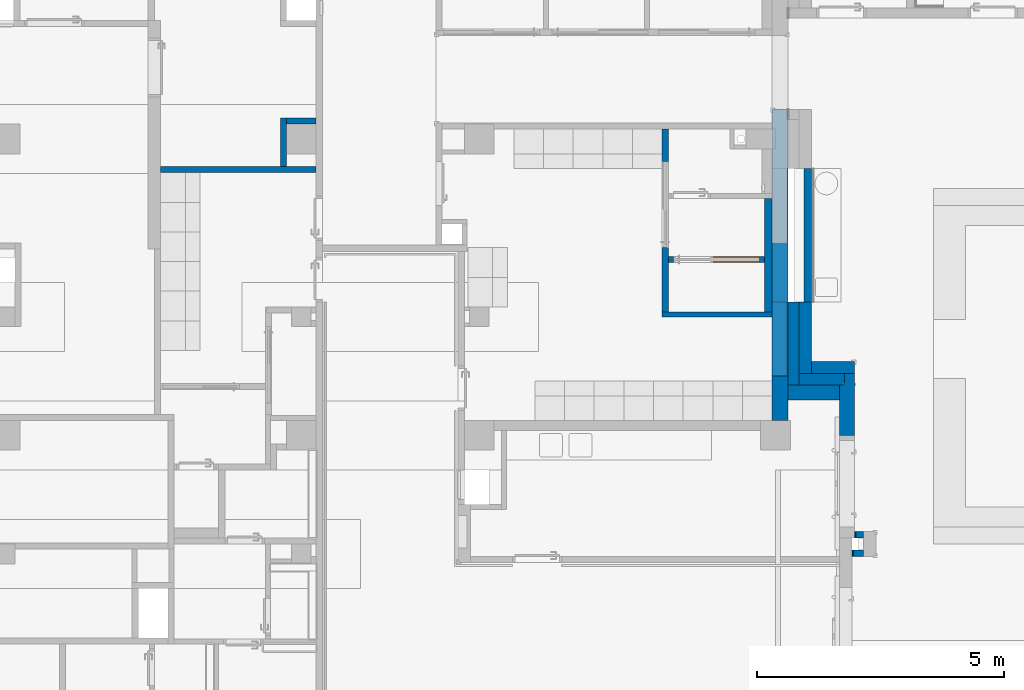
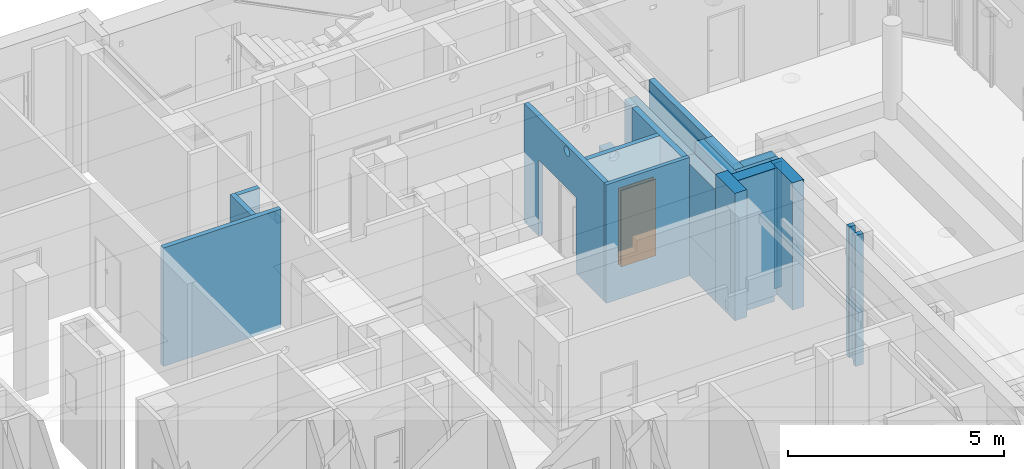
# One storey, part 52 of 140: 24 walls, 1 proxy, 8 openings.
"""IFC4 building model written with IfcOpenShell, lengths in metres."""

from ifc_helpers import new_model, entity, si_unit, converted_unit, derived_unit, frame, frame_2d, origin, origin_with_axes, place, context, subcontext, project, spatial, polyline, rectangle, outline, extrude, faceted_brep, material, layer, layer_set, layer_usage, element, fill, save


model = new_model("IFC4")

# Units and contexts
model_context = context("Model", 3, precision=1e-05, world=origin())
body_context = subcontext(model_context, "Body", "Model", "MODEL_VIEW")
ifc_project = project(units=[si_unit("LENGTHUNIT", "METRE"), si_unit("AREAUNIT", "SQUARE_METRE"), si_unit("VOLUMEUNIT", "CUBIC_METRE"), si_unit("MASSUNIT", "GRAM", prefix="KILO"), converted_unit("PLANEANGLEUNIT", "DEGREE", entity("IfcPlaneAngleMeasure", 0.0174532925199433), si_unit("PLANEANGLEUNIT", "RADIAN"), dimensions=[0, 0, 0, 0, 0, 0, 0]), derived_unit("THERMALTRANSMITTANCEUNIT", [(si_unit("POWERUNIT", "WATT"), 1), (si_unit("THERMODYNAMICTEMPERATUREUNIT", "KELVIN"), -1), (si_unit("LENGTHUNIT", "METRE"), -2)]), derived_unit("VOLUMETRICFLOWRATEUNIT", [(si_unit("LENGTHUNIT", "METRE"), 3), (converted_unit("TIMEUNIT", "hour", entity("IfcTimeMeasure", 3600.0), si_unit("TIMEUNIT", "SECOND"), dimensions=[0, 0, 1, 0, 0, 0, 0]), -1), (si_unit("LENGTHUNIT", "METRE"), -1)])], contexts=[model_context])

# Site, building, storey
site_placement = place(None, origin())
site = spatial("IfcSite", under=ifc_project, at=site_placement, Name="3. ASŘ", CompositionType="ELEMENT")
building_placement = place(site_placement, origin())
building = spatial("IfcBuilding", under=site, at=building_placement, Name="Pavilon C", CompositionType="ELEMENT")
storey_placement = place(building_placement, origin())
storey = spatial("IfcBuildingStorey", under=building, at=storey_placement, Name="Půdorys 1.NP", CompositionType="ELEMENT", Elevation=0.0)

# Wall, opening
ifc_material_1 = material(Name="PLYNOSILIKÁT")
ifc_layer_1 = layer(ifc_material_1, 0.32)
ifc_layer_set_1 = layer_set([ifc_layer_1])
ifc_layer_usage_1 = layer_usage(ifc_layer_set_1, "AXIS2", "POSITIVE", 0.0)
wall_1_placement = place(storey_placement, frame((49.88, 20.4, -0.1), z_axis=(0.0, 0.0, 1.0), x_axis=(0.0, -1.0, 0.0)))
wall_1 = element("IfcWall", 1, at=wall_1_placement, inside=storey, material=ifc_layer_usage_1, Name="PLYNOSILIKÁT", context=body_context, shape_type="SweptSolid", body=[
    extrude(rectangle(XDim=0.899999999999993, YDim=0.32, at=frame_2d((0.449999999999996, 0.16), x_axis=(1.0, 0.0))), origin_with_axes(), (0.0, 0.0, 1.0), 3.6),
])
opening_1_placement = place(wall_1_placement, frame((0.591430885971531, 0.32, 0.1), z_axis=(0.0, -1.0, 0.0), x_axis=(0.0, 0.0, 1.0)))
element("IfcOpeningElement", 2, at=opening_1_placement, cuts=wall_1, Name="UT", ObjectType="Opening", context=body_context, shape_type="SweptSolid", body=[
    extrude(outline(polyline([(0.0, 0.12), (0.25, 0.12), (0.25, 0.0), (0.0, 0.0), (0.0, 0.12)])), origin_with_axes(), (0.0, 0.0, 1.0), 0.32),
])

# Walls
ifc_material_2 = material(Name="ZELEZOBETONOVÁ KCE")
ifc_layer_2 = layer(ifc_material_2, 0.3)
ifc_layer_set_2 = layer_set([ifc_layer_2])
ifc_layer_usage_2 = layer_usage(ifc_layer_set_2, "AXIS2", "POSITIVE", 0.0)
wall_2_placement = place(storey_placement, frame((51.25, 20.22, -0.1), z_axis=(0.0, 0.0, 1.0), x_axis=(-1.0, 0.0, 0.0)))
element("IfcWall", 3, at=wall_2_placement, inside=storey, material=ifc_layer_usage_2, Name="ZELEZOBETONOVÁ KCE", context=body_context, shape_type="SweptSolid", body=[
    extrude(rectangle(XDim=1.05, YDim=0.3, at=frame_2d((0.525, 0.15), x_axis=(1.0, 0.0))), origin_with_axes(), (0.0, 0.0, 1.0), 3.6),
])
ifc_material_3 = material(Name="ZELEZOBETONOVÁ KCE")
ifc_layer_3 = layer(ifc_material_3, 0.3)
ifc_layer_set_3 = layer_set([ifc_layer_3])
ifc_layer_usage_3 = layer_usage(ifc_layer_set_3, "AXIS2", "POSITIVE", 0.0)
wall_3_placement = place(storey_placement, frame((51.55, 19.2, -0.1), z_axis=(0.0, 0.0, 1.0), x_axis=(0.0, 1.0, 0.0)))
element("IfcWall", 4, at=wall_3_placement, inside=storey, material=ifc_layer_usage_3, Name="ZELEZOBETONOVÁ KCE", context=body_context, shape_type="SweptSolid", body=[
    extrude(rectangle(XDim=1.01999999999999, YDim=0.3, at=frame_2d((0.509999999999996, 0.15), x_axis=(1.0, 0.0))), origin_with_axes(), (0.0, 0.0, 1.0), 3.6),
])
ifc_material_4 = material(Name="ZDIVO Z CDm")
ifc_layer_4 = layer(ifc_material_4, 0.125)
ifc_layer_set_4 = layer_set([ifc_layer_4])
ifc_layer_usage_4 = layer_usage(ifc_layer_set_4, "AXIS2", "POSITIVE", 0.0)
wall_4_placement = place(storey_placement, frame((37.5, 24.52, -0.1)))
element("IfcWall", 5, at=wall_4_placement, inside=storey, material=ifc_layer_usage_4, Name="ZDIVO Z CDm", context=body_context, shape_type="SweptSolid", body=[
    extrude(rectangle(XDim=3.15, YDim=0.125, at=frame_2d((1.575, 0.0625), x_axis=(1.0, 0.0))), origin_with_axes(), (0.0, 0.0, 1.0), 3.35),
])
ifc_material_5 = material(Name="ZDIVO Z CDm")
ifc_layer_5 = layer(ifc_material_5, 0.125)
ifc_layer_set_5 = layer_set([ifc_layer_5])
ifc_layer_usage_5 = layer_usage(ifc_layer_set_5, "AXIS2", "POSITIVE", 0.0)
wall_5_placement = place(storey_placement, frame((40.65, 25.625, -0.1), z_axis=(0.0, 0.0, 1.0), x_axis=(-1.0, 0.0, 0.0)))
element("IfcWall", 6, at=wall_5_placement, inside=storey, material=ifc_layer_usage_5, Name="ZDIVO Z CDm", context=body_context, shape_type="SweptSolid", body=[
    extrude(rectangle(XDim=0.6, YDim=0.125, at=frame_2d((0.3, 0.0625), x_axis=(1.0, 0.0))), origin_with_axes(), (0.0, 0.0, 1.0), 3.35),
])
ifc_material_6 = material(Name="ZDIVO Z CDm")
ifc_layer_6 = layer(ifc_material_6, 0.125)
ifc_layer_set_6 = layer_set([ifc_layer_6])
ifc_layer_usage_6 = layer_usage(ifc_layer_set_6, "AXIS2", "POSITIVE", 0.0)
wall_6_placement = place(storey_placement, frame((39.925, 25.625, -0.1), z_axis=(0.0, 0.0, 1.0), x_axis=(0.0, -1.0, 0.0)))
element("IfcWall", 7, at=wall_6_placement, inside=storey, material=ifc_layer_usage_6, Name="ZDIVO Z CDm", context=body_context, shape_type="SweptSolid", body=[
    extrude(rectangle(XDim=0.98, YDim=0.125, at=frame_2d((0.49, 0.0625), x_axis=(1.0, 0.0))), origin_with_axes(), (0.0, 0.0, 1.0), 3.35),
])
ifc_material_7 = material(Name="ZELEZOBETONOVÁ KCE")
ifc_layer_7 = layer(ifc_material_7, 0.32)
ifc_layer_set_7 = layer_set([ifc_layer_7])
ifc_layer_usage_7 = layer_usage(ifc_layer_set_7, "AXIS2", "POSITIVE", 0.0)
wall_7_placement = place(storey_placement, frame((50.2, 20.4, 1.03), z_axis=(0.0, 0.0, 1.0), x_axis=(0.0, 1.0, 0.0)))
element("IfcWall", 8, at=wall_7_placement, inside=storey, material=ifc_layer_usage_7, Name="ZELEZOBETONOVÁ KCE", context=body_context, shape_type="SweptSolid", body=[
    extrude(rectangle(XDim=4.19999999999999, YDim=0.32, at=frame_2d((2.1, 0.16), x_axis=(1.0, 0.0))), origin_with_axes(), (0.0, 0.0, 1.0), 2.04),
])

# Wall, openings
ifc_material_8 = material(Name="ZELEZOBETONOVÁ KCE")
ifc_layer_8 = layer(ifc_material_8, 0.32)
ifc_layer_set_8 = layer_set([ifc_layer_8])
ifc_layer_usage_8 = layer_usage(ifc_layer_set_8, "AXIS2", "POSITIVE", 0.0)
wall_8_placement = place(storey_placement, frame((50.2, 20.4, -0.1), z_axis=(0.0, 0.0, 1.0), x_axis=(0.0, 1.0, 0.0)))
wall_8 = element("IfcWall", 9, at=wall_8_placement, inside=storey, material=ifc_layer_usage_8, Name="ZELEZOBETONOVÁ KCE", context=body_context, shape_type="SweptSolid", body=[
    extrude(rectangle(XDim=5.39999999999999, YDim=0.32, at=frame_2d((2.69999999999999, 0.16), x_axis=(1.0, 0.0))), origin_with_axes(), (0.0, 0.0, 1.0), 1.13),
])
opening_2_placement = place(wall_8_placement, frame((0.0, 0.0, 1.13), z_axis=(0.0, 1.0, 0.0), x_axis=(0.0, 0.0, 1.0)))
element("IfcOpeningElement", 10, at=opening_2_placement, cuts=wall_8, Name="Okenní otvor", ObjectType="Opening", context=body_context, shape_type="SweptSolid", body=[
    extrude(outline(polyline([(0.0, 1.5), (2.04, 1.5), (2.04, 0.0), (0.0, 0.0), (0.0, 1.5)])), origin_with_axes(), (0.0, 0.0, 1.0), 0.32),
])
opening_3_placement = place(wall_8_placement, frame((2.69999999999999, 0.0, 1.13), z_axis=(0.0, 1.0, 0.0), x_axis=(0.0, 0.0, 1.0)))
element("IfcOpeningElement", 11, at=opening_3_placement, cuts=wall_8, Name="Okenní otvor", ObjectType="Opening", context=body_context, shape_type="SweptSolid", body=[
    extrude(outline(polyline([(0.0, 1.5), (2.04, 1.5), (2.04, 0.0), (0.0, 0.0), (0.0, 1.5)])), origin_with_axes(), (0.0, 0.0, 1.0), 0.32),
])
opening_4_placement = place(wall_8_placement, frame((3.86030615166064, 0.32, 0.240000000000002), z_axis=(0.0, -1.0, 0.0), x_axis=(0.0, 0.0, 1.0)))
element("IfcOpeningElement", 12, at=opening_4_placement, cuts=wall_8, Name="ZTI", ObjectType="Opening", context=body_context, shape_type="SweptSolid", body=[
    extrude(outline(polyline([(0.0499999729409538, 0.0), (0.0447735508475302, 0.000273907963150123), (0.0396043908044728, 0.00109262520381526), (0.0345491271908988, 0.00244718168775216), (0.0296631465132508, 0.00432273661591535), (0.0249999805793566, 0.00669874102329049), (0.0206107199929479, 0.00954916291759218), (0.0165434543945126, 0.012842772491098), (0.012842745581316, 0.01654348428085), (0.00954913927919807, 0.020610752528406), (0.00669872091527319, 0.025000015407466), (0.00432272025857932, 0.029663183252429), (0.00244716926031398, 0.0345491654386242), (0.0010926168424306, 0.0396044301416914), (0.000273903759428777, 0.0447735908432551), (0.0, 0.0500000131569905), (0.000273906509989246, 0.0552264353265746), (0.0010926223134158, 0.0603955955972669), (0.00244717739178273, 0.0654508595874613), (0.00432273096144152, 0.0703368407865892), (0.00669873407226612, 0.0750000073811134), (0.00954915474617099, 0.0793892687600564), (0.0128427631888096, 0.0834565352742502), (0.0165434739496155, 0.0871572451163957), (0.0206107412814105, 0.0904508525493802), (0.025000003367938, 0.0933012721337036), (0.0296631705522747, 0.0956772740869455), (0.0345491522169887, 0.0975528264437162), (0.0396044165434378, 0.0989073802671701), (0.0447735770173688, 0.0997260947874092), (0.0499999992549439, 0.1), (0.0552264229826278, 0.0997260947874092), (0.0603955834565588, 0.0989073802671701), (0.0654508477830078, 0.0975528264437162), (0.0703368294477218, 0.0956772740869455), (0.0749999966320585, 0.0933012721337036), (0.079389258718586, 0.0904508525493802), (0.083456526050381, 0.0871572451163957), (0.0871572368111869, 0.0834565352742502), (0.0904508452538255, 0.0793892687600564), (0.0933012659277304, 0.0750000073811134), (0.095677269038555, 0.0703368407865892), (0.0975528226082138, 0.0654508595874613), (0.0989073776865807, 0.0603955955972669), (0.0997260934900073, 0.0552264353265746), (0.0999999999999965, 0.0500000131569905), (0.0997260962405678, 0.0447735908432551), (0.0989073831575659, 0.0396044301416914), (0.0975528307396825, 0.0345491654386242), (0.0956772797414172, 0.029663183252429), (0.0933012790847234, 0.025000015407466), (0.0904508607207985, 0.020610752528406), (0.0871572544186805, 0.01654348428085), (0.0834565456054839, 0.012842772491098), (0.0793892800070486, 0.00954916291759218), (0.0750000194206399, 0.00669874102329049), (0.0703368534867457, 0.00432273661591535), (0.0654508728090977, 0.00244718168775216), (0.0603956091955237, 0.00109262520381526), (0.0552264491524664, 0.000273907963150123), (0.0499999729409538, 0.0)])), origin_with_axes(), (0.0, 0.0, 1.0), 0.32),
])

# Walls
ifc_material_9 = material(Name="ZELEZOBETONOVÁ KCE")
ifc_layer_9 = layer(ifc_material_9, 0.25)
ifc_layer_set_9 = layer_set([ifc_layer_9])
ifc_layer_usage_9 = layer_usage(ifc_layer_set_9, "AXIS2", "POSITIVE", -0.125)
wall_9_placement = place(storey_placement, frame((50.68, 20.45, -0.3), z_axis=(0.0, 0.0, 1.0), x_axis=(0.0, 1.0, 0.0)))
element("IfcWall", 13, at=wall_9_placement, inside=storey, material=ifc_layer_usage_9, Name="ZELEZOBETONOVÁ KCE", context=body_context, shape_type="SweptSolid", body=[
    extrude(rectangle(XDim=1.45, YDim=0.25, at=frame_2d((0.724999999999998, 0.125), x_axis=(1.0, 0.0))), origin_with_axes(), (0.0, 0.0, 1.0), 3.7),
])
ifc_material_10 = material(Name="ZELEZOBETONOVÁ KCE")
ifc_layer_10 = layer(ifc_material_10, 0.2)
ifc_layer_set_10 = layer_set([ifc_layer_10])
ifc_layer_usage_10 = layer_usage(ifc_layer_set_10, "AXIS2", "POSITIVE", -0.125)
wall_10_placement = place(storey_placement, frame((51.55, 20.24, -0.3), z_axis=(0.0, 0.0, 1.0), x_axis=(0.0, 1.0, 0.0)))
element("IfcWall", 14, at=wall_10_placement, inside=storey, material=ifc_layer_usage_10, Name="ZELEZOBETONOVÁ KCE", context=body_context, shape_type="SweptSolid", body=[
    extrude(rectangle(XDim=0.21, YDim=0.2, at=frame_2d((0.105, 0.1), x_axis=(1.0, 0.0))), origin_with_axes(), (0.0, 0.0, 1.0), 3.7),
])
ifc_material_11 = material(Name="ZELEZOBETONOVÁ KCE")
ifc_layer_11 = layer(ifc_material_11, 0.25)
ifc_layer_set_11 = layer_set([ifc_layer_11])
ifc_layer_usage_11 = layer_usage(ifc_layer_set_11, "AXIS2", "POSITIVE", -0.125)
wall_11_placement = place(storey_placement, frame((51.55, 20.7, -0.3), z_axis=(0.0, 0.0, 1.0), x_axis=(-1.0, 0.0, 0.0)))
element("IfcWall", 15, at=wall_11_placement, inside=storey, material=ifc_layer_usage_11, Name="ZELEZOBETONOVÁ KCE", context=body_context, shape_type="SweptSolid", body=[
    extrude(rectangle(XDim=0.87, YDim=0.25, at=frame_2d((0.435, 0.125), x_axis=(1.0, 0.0))), origin_with_axes(), (0.0, 0.0, 1.0), 3.7),
])
ifc_material_12 = material(Name="EPS")
ifc_layer_12 = layer(ifc_material_12, 0.02)
ifc_layer_set_12 = layer_set([ifc_layer_12])
ifc_layer_usage_12 = layer_usage(ifc_layer_set_12, "AXIS2", "POSITIVE", 0.0)
wall_12_placement = place(storey_placement, frame((51.57, 17.125, -0.15), z_axis=(0.0, 0.0, 1.0), x_axis=(0.0, 1.0, 0.0)))
element("IfcWall", 16, at=wall_12_placement, inside=storey, material=ifc_layer_usage_12, Name="EPS", context=body_context, shape_type="SweptSolid", body=[
    extrude(rectangle(XDim=0.125, YDim=0.02, at=frame_2d((0.0625, 0.01), x_axis=(1.0, 0.0))), origin_with_axes(), (0.0, 0.0, 1.0), 3.55),
])
ifc_material_13 = material(Name="EPS")
ifc_layer_13 = layer(ifc_material_13, 0.02)
ifc_layer_set_13 = layer_set([ifc_layer_13])
ifc_layer_usage_13 = layer_usage(ifc_layer_set_13, "AXIS2", "POSITIVE", 0.0)
wall_13_placement = place(storey_placement, frame((51.55, 20.24, -0.15), z_axis=(0.0, 0.0, 1.0), x_axis=(-1.0, 0.0, 0.0)))
element("IfcWall", 17, at=wall_13_placement, inside=storey, material=ifc_layer_usage_13, Name="EPS", context=body_context, shape_type="SweptSolid", body=[
    extrude(rectangle(XDim=0.2, YDim=0.02, at=frame_2d((0.1, 0.01), x_axis=(1.0, 0.0))), origin_with_axes(), (0.0, 0.0, 1.0), 3.55),
])
ifc_material_14 = material(Name="EPS")
ifc_layer_14 = layer(ifc_material_14, 0.23)
ifc_layer_set_14 = layer_set([ifc_layer_14])
ifc_layer_usage_14 = layer_usage(ifc_layer_set_14, "AXIS2", "POSITIVE", 0.0)
wall_14_placement = place(storey_placement, frame((50.43, 20.22, -0.5), z_axis=(0.0, 0.0, 1.0), x_axis=(0.0, 1.0, 0.0)))
element("IfcWall", 18, at=wall_14_placement, inside=storey, material=ifc_layer_usage_14, Name="EPS", context=body_context, shape_type="SweptSolid", body=[
    extrude(rectangle(XDim=1.68, YDim=0.23, at=frame_2d((0.839999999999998, 0.115), x_axis=(1.0, 0.0))), origin_with_axes(), (0.0, 0.0, 1.0), 3.9),
])
ifc_material_15 = material(Name="EPS")
ifc_layer_15 = layer(ifc_material_15, 0.23)
ifc_layer_set_15 = layer_set([ifc_layer_15])
ifc_layer_usage_15 = layer_usage(ifc_layer_set_15, "AXIS2", "POSITIVE", 0.0)
wall_15_placement = place(storey_placement, frame((51.35, 20.45, -0.5), z_axis=(0.0, 0.0, 1.0), x_axis=(-1.0, 0.0, 0.0)))
element("IfcWall", 19, at=wall_15_placement, inside=storey, material=ifc_layer_usage_15, Name="EPS", context=body_context, shape_type="SweptSolid", body=[
    extrude(rectangle(XDim=0.92, YDim=0.23, at=frame_2d((0.46, 0.115), x_axis=(1.0, 0.0))), origin_with_axes(), (0.0, 0.0, 1.0), 3.9),
])
ifc_material_16 = material(Name="EPS")
ifc_layer_16 = layer(ifc_material_16, 0.02)
ifc_layer_set_16 = layer_set([ifc_layer_16])
ifc_layer_usage_16 = layer_usage(ifc_layer_set_16, "AXIS2", "POSITIVE", 0.0)
wall_16_placement = place(storey_placement, frame((51.52, 16.75, -0.15), z_axis=(0.0, 0.0, 1.0), x_axis=(0.0, 1.0, 0.0)))
element("IfcWall", 20, at=wall_16_placement, inside=storey, material=ifc_layer_usage_16, Name="EPS", context=body_context, shape_type="SweptSolid", body=[
    extrude(rectangle(XDim=0.125, YDim=0.02, at=frame_2d((0.0625, 0.01), x_axis=(1.0, 0.0))), origin_with_axes(), (0.0, 0.0, 1.0), 3.55),
])
ifc_material_17 = material(Name="YTONG 300")
ifc_layer_17 = layer(ifc_material_17, 0.3)
ifc_layer_set_17 = layer_set([ifc_layer_17])
ifc_layer_usage_17 = layer_usage(ifc_layer_set_17, "AXIS2", "POSITIVE", 0.0)
wall_17_placement = place(storey_placement, frame((49.88, 21.9, 1.03), z_axis=(0.0, 0.0, 1.0), x_axis=(0.0, -1.0, 0.0)))
element("IfcWall", 21, at=wall_17_placement, inside=storey, material=ifc_layer_usage_17, Name="YTONG 300", context=body_context, shape_type="SweptSolid", body=[
    extrude(rectangle(XDim=1.5, YDim=0.3, at=frame_2d((0.75, 0.15), x_axis=(1.0, 0.0))), origin_with_axes(), (0.0, 0.0, 1.0), 2.04),
])
ifc_material_18 = material(Name="YTONG 125")
ifc_layer_18 = layer(ifc_material_18, 0.125)
ifc_layer_set_18 = layer_set([ifc_layer_18])
ifc_layer_usage_18 = layer_usage(ifc_layer_set_18, "AXIS2", "POSITIVE", 0.0)
wall_18_placement = place(storey_placement, frame((51.57, 17.125, -0.3)))
element("IfcWall", 22, at=wall_18_placement, inside=storey, material=ifc_layer_usage_18, Name="YTONG 125", context=body_context, shape_type="SweptSolid", body=[
    extrude(rectangle(XDim=0.16, YDim=0.125, at=frame_2d((0.08, 0.0625), x_axis=(1.0, 0.0))), origin_with_axes(), (0.0, 0.0, 1.0), 3.7),
])
ifc_material_19 = material(Name="YTONG 125")
ifc_layer_19 = layer(ifc_material_19, 0.125)
ifc_layer_set_19 = layer_set([ifc_layer_19])
ifc_layer_usage_19 = layer_usage(ifc_layer_set_19, "AXIS2", "POSITIVE", 0.0)
wall_19_placement = place(storey_placement, frame((51.52, 16.75, -0.3)))
element("IfcWall", 23, at=wall_19_placement, inside=storey, material=ifc_layer_usage_19, Name="YTONG 125", context=body_context, shape_type="SweptSolid", body=[
    extrude(rectangle(XDim=0.21, YDim=0.125, at=frame_2d((0.105, 0.0625), x_axis=(1.0, 0.0))), origin_with_axes(), (0.0, 0.0, 1.0), 3.7),
])
ifc_material_20 = material(Name="SDK INSTAL. PŘDSTĚNA VYSOKÁ")
ifc_layer_20 = layer(ifc_material_20, 0.15)
ifc_layer_set_20 = layer_set([ifc_layer_20])
ifc_layer_usage_20 = layer_usage(ifc_layer_set_20, "AXIS2", "POSITIVE", 0.0)
wall_20_placement = place(storey_placement, frame((49.88, 21.7, -0.1), z_axis=(0.0, 0.0, 1.0), x_axis=(0.0, 1.0, 0.0)))
element("IfcWall", 24, at=wall_20_placement, inside=storey, material=ifc_layer_usage_20, Name="SDK INSTAL. PŘDSTĚNA VYSOKÁ", context=body_context, shape_type="SweptSolid", body=[
    extrude(rectangle(XDim=2.30000000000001, YDim=0.15, at=frame_2d((1.15, 0.075), x_axis=(1.0, 0.0))), origin_with_axes(), (0.0, 0.0, 1.0), 3.35),
])

# Wall, openings, proxy
ifc_material_21 = material(Name="SDK - 1 KCE + DVOJITÉ OPLÁŠTĚNÍ")
ifc_layer_21 = layer(ifc_material_21, 0.125)
ifc_layer_set_21 = layer_set([ifc_layer_21])
ifc_layer_usage_21 = layer_usage(ifc_layer_set_21, "AXIS2", "POSITIVE", 0.0)
wall_21_placement = place(storey_placement, frame((49.73, 22.825, -0.1), z_axis=(0.0, 0.0, 1.0), x_axis=(-1.0, 0.0, 0.0)))
wall_21 = element("IfcWall", 25, at=wall_21_placement, inside=storey, material=ifc_layer_usage_21, Name="SDK - 1 KCE + DVOJITÉ OPLÁŠTĚNÍ", context=body_context, shape_type="SweptSolid", body=[
    extrude(rectangle(XDim=1.95, YDim=0.125, at=frame_2d((0.975, 0.0625), x_axis=(1.0, 0.0))), origin_with_axes(), (0.0, 0.0, 1.0), 3.35),
])
opening_5_placement = place(wall_21_placement, frame((1.85, 0.125, 0.0), z_axis=(0.0, -1.0, 0.0), x_axis=(0.0, 0.0, 1.0)))
opening_5 = element("IfcOpeningElement", 26, at=opening_5_placement, cuts=wall_21, Name="Dveřní otvor", ObjectType="Opening", context=body_context, shape_type="SweptSolid", body=[
    extrude(outline(polyline([(0.0, 1.745), (2.16, 1.745), (2.16, 0.0), (0.0, 0.0), (0.0, 1.745)])), origin_with_axes(), (0.0, 0.0, 1.0), 0.125),
])
opening_6_placement = place(wall_21_placement, frame((1.36, 0.125, 3.07), z_axis=(0.0, -1.0, 0.0), x_axis=(0.0, 0.0, 1.0)))
element("IfcOpeningElement", 27, at=opening_6_placement, cuts=wall_21, Name="VZT", ObjectType="Opening", context=body_context, shape_type="SweptSolid", body=[
    extrude(outline(polyline([(0.129999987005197, 0.0), (0.116411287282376, 0.000712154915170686), (0.102971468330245, 0.00284081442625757), (0.0898277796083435, 0.00636265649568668), (0.0771242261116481, 0.0112390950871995), (0.064999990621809, 0.0174167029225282), (0.0535879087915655, 0.0248277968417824), (0.0430130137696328, 0.033391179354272), (0.0333911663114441, 0.0430130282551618), (0.0248277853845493, 0.0535879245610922), (0.0174166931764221, 0.0650000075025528), (0.0112390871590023, 0.0771242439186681), (0.00636265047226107, 0.0898277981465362), (0.00284081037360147, 0.102971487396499), (0.00071215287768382, 0.116411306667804), (0.0, 0.130000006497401), (0.00071215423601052, 0.143588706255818), (0.00284081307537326, 0.157028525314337), (0.00636265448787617, 0.17017221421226), (0.0112390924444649, 0.182875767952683), (0.0174166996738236, 0.19500000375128), (0.0248277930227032, 0.206412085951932), (0.0333911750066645, 0.21698698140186), (0.0430130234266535, 0.226608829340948), (0.0535879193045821, 0.235172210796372), (0.0650000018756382, 0.242583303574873), (0.0771242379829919, 0.248760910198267), (0.0898277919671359, 0.253637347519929), (0.102971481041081, 0.257159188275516), (0.116411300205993, 0.259287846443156), (0.13, 0.26), (0.143588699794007, 0.259287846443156), (0.157028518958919, 0.257159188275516), (0.170172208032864, 0.253637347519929), (0.182875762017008, 0.248760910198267), (0.194999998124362, 0.242583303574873), (0.206412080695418, 0.235172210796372), (0.216986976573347, 0.226608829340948), (0.226608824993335, 0.21698698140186), (0.235172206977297, 0.206412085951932), (0.242583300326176, 0.19500000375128), (0.248760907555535, 0.182875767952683), (0.253637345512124, 0.17017221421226), (0.257159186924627, 0.157028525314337), (0.259287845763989, 0.143588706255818), (0.26, 0.130000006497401), (0.259287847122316, 0.116411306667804), (0.257159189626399, 0.102971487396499), (0.253637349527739, 0.0898277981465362), (0.248760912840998, 0.0771242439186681), (0.242583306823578, 0.0650000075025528), (0.235172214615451, 0.0535879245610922), (0.226608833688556, 0.0430130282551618), (0.216986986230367, 0.033391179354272), (0.206412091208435, 0.0248277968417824), (0.195000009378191, 0.0174167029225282), (0.182875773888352, 0.0112390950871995), (0.170172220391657, 0.00636265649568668), (0.157028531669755, 0.00284081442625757), (0.143588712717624, 0.000712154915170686), (0.129999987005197, 0.0)])), origin_with_axes(), (0.0, 0.0, 1.0), 0.125),
])
ifc_material_22 = material(Name="SDK - 1 KCE + DVOJITÉ OPLÁŠTĚNÍ")
proxy_placement = place(opening_5_placement, frame((0.0, 0.8, 0.0)))
proxy = element("IfcBuildingElementProxy", 28, at=proxy_placement, inside=storey, material=ifc_material_22, context=body_context, shape_type="Brep", body=[
    faceted_brep([(0.0, 0.945, 0.125), (0.0, 0.945, 0.1), (2.16, 0.945, 0.1), (2.16, 0.945, 0.125), (0.0, 5.6843418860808e-17, 0.1), (2.16, 5.6843418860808e-17, 0.1), (0.0, 5.6843418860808e-17, 0.125), (2.16, 5.6843418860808e-17, 0.125), (0.0, 5.6843418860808e-17, 7.105427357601e-18), (0.0, 5.6843418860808e-17, 0.025), (2.16, 5.6843418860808e-17, 0.025), (2.16, 5.6843418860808e-17, 7.105427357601e-18), (0.0, 0.945, 0.025), (2.16, 0.945, 0.025), (0.0, 0.945, 7.105427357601e-18), (2.16, 0.945, 7.105427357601e-18)], [[[0, 1, 2, 3]], [[1, 4, 5, 2]], [[4, 6, 7, 5]], [[6, 0, 3, 7]], [[7, 3, 2, 5]], [[0, 6, 4, 1]], [[8, 9, 10, 11]], [[9, 12, 13, 10]], [[12, 14, 15, 13]], [[14, 8, 11, 15]], [[15, 11, 10, 13]], [[8, 14, 12, 9]]], orient=[[False], [False], [False], [False], [False], [False], [False], [False], [False], [False], [False], [False]]),
])
fill(opening_5, proxy)

# Walls
ifc_material_23 = material(Name="SDK INSTAL. PŘDSTĚNA VYSOKÁ")
ifc_layer_22 = layer(ifc_material_23, 0.149988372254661)
ifc_layer_set_22 = layer_set([ifc_layer_22])
ifc_layer_usage_22 = layer_usage(ifc_layer_set_22, "AXIS2", "POSITIVE", 0.0)
wall_22_placement = place(storey_placement, frame((50.68009301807, 21.900019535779, 0.0), z_axis=(0.0, 0.0, 1.0), x_axis=(-7.25894580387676e-05, 0.999999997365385, 0.0)))
element("IfcWall", 29, at=wall_22_placement, inside=storey, material=ifc_layer_usage_22, Name="SDK INSTAL. PŘDSTĚNA VYSOKÁ", context=body_context, shape_type="SweptSolid", body=[
    extrude(outline(polyline([(1.37086781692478e-05, -0.150184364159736), (2.69999418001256, -0.150184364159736), (2.70000506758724, -0.000195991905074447), (-6.63066842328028e-09, -9.13447845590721e-05), (-5.82034865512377e-06, -0.150091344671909), (1.37086781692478e-05, -0.150184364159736)])), frame((-1.37086781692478e-05, 0.150184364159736, 0.0), z_axis=(0.0, 0.0, 1.0), x_axis=(1.0, 0.0, 0.0)), (0.0, 0.0, 1.0), 3.4),
])
ifc_material_24 = material(Name="SDK - 1 KCE + DVOJITÉ OPLÁŠTĚNÍ")
ifc_layer_23 = layer(ifc_material_24, 0.1)
ifc_layer_set_23 = layer_set([ifc_layer_23])
ifc_layer_usage_23 = layer_usage(ifc_layer_set_23, "AXIS2", "POSITIVE", 0.0)
wall_23_placement = place(storey_placement, frame((49.88, 21.7, -0.1), z_axis=(0.0, 0.0, 1.0), x_axis=(-1.0, 3.27009330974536e-15, 0.0)))
element("IfcWall", 30, at=wall_23_placement, inside=storey, material=ifc_layer_usage_23, Name="SDK - 1 KCE + DVOJITÉ OPLÁŠTĚNÍ", context=body_context, shape_type="SweptSolid", body=[
    extrude(rectangle(XDim=2.225, YDim=0.1, at=frame_2d((1.1125, 0.05), x_axis=(1.0, 0.0))), origin_with_axes(), (0.0, 0.0, 1.0), 3.35),
])

# Wall, openings
ifc_material_25 = material(Name="SDK - 1 KCE + DVOJITÉ OPLÁŠTĚNÍ")
ifc_layer_24 = layer(ifc_material_25, 0.125)
ifc_layer_set_24 = layer_set([ifc_layer_24])
ifc_layer_usage_24 = layer_usage(ifc_layer_set_24, "AXIS2", "POSITIVE", 0.0)
wall_24_placement = place(storey_placement, frame((47.78, 21.7, -0.1), z_axis=(0.0, 0.0, 1.0), x_axis=(0.0, 1.0, 0.0)))
wall_24 = element("IfcWall", 31, at=wall_24_placement, inside=storey, material=ifc_layer_usage_24, Name="SDK - 1 KCE + DVOJITÉ OPLÁŠTĚNÍ", context=body_context, shape_type="SweptSolid", body=[
    extrude(rectangle(XDim=3.7, YDim=0.125, at=frame_2d((1.85, 0.0625), x_axis=(1.0, 0.0))), origin_with_axes(), (0.0, 0.0, 1.0), 3.35),
])
opening_7_placement = place(wall_24_placement, frame((1.29999999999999, 0.0, 0.0), z_axis=(0.0, 1.0, 0.0), x_axis=(0.0, 0.0, 1.0)))
element("IfcOpeningElement", 32, at=opening_7_placement, cuts=wall_24, Name="Dveřní otvor", ObjectType="Opening", context=body_context, shape_type="SweptSolid", body=[
    extrude(outline(polyline([(0.0, 1.745), (2.16, 1.745), (2.16, 0.0), (0.0, 0.0), (0.0, 1.745)])), origin_with_axes(), (0.0, 0.0, 1.0), 0.125),
])
opening_8_placement = place(wall_24_placement, frame((1.58988097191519, 0.0, 3.07000000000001), z_axis=(0.0, 1.0, 0.0), x_axis=(0.0, 0.0, 1.0)))
element("IfcOpeningElement", 33, at=opening_8_placement, cuts=wall_24, Name="VZT", ObjectType="Opening", context=body_context, shape_type="SweptSolid", body=[
    extrude(outline(polyline([(0.129999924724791, 0.0), (0.116411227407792, 0.000712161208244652), (0.102971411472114, 0.00284082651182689), (0.0898277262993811, 0.00636267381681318), (0.0771241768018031, 0.0112391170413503), (0.0649999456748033, 0.0174167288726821), (0.0535878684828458, 0.0248278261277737), (0.0430129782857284, 0.0333912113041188), (0.0333911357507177, 0.0430130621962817), (0.0248277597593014, 0.0535879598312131), (0.0174166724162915, 0.0650000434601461), (0.0112390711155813, 0.0771242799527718), (0.00636263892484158, 0.0898278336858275), (0.00284080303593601, 0.102971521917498), (0.000712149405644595, 0.116411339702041), (0.0, 0.13000003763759), (0.00071215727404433, 0.143588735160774), (0.00284081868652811, 0.157028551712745), (0.00636266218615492, 0.170172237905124), (0.01123910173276, 0.182875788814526), (0.0174167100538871, 0.195000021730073), (0.024827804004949, 0.206412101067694), (0.0333911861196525, 0.216986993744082), (0.0430130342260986, 0.226608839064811), (0.0535879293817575, 0.23517221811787), (0.0650000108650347, 0.242583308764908), (0.0771242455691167, 0.248760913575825), (0.0898277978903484, 0.253637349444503), (0.10297148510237, 0.257159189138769), (0.116411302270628, 0.259287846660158), (0.129999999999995, 0.26), (0.143588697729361, 0.259287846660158), (0.157028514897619, 0.257159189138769), (0.170172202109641, 0.253637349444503), (0.182875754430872, 0.248760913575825), (0.194999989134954, 0.242583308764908), (0.206412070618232, 0.23517221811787), (0.21698696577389, 0.226608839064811), (0.226608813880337, 0.216986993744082), (0.23517219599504, 0.206412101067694), (0.242583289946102, 0.195000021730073), (0.248760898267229, 0.182875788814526), (0.253637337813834, 0.170172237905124), (0.257159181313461, 0.157028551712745), (0.259287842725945, 0.143588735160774), (0.259999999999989, 0.13000003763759), (0.259287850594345, 0.116411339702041), (0.257159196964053, 0.102971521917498), (0.253637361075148, 0.0898278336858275), (0.248760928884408, 0.0771242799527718), (0.242583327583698, 0.0650000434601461), (0.235172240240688, 0.0535879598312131), (0.226608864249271, 0.0430130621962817), (0.216987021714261, 0.0333912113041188), (0.206412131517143, 0.0248278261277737), (0.195000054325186, 0.0174167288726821), (0.182875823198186, 0.0112391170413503), (0.170172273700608, 0.00636267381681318), (0.157028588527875, 0.00284082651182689), (0.143588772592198, 0.000712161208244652), (0.129999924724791, 0.0)])), origin_with_axes(), (0.0, 0.0, 1.0), 0.125),
])

save(model, "model.ifc")
